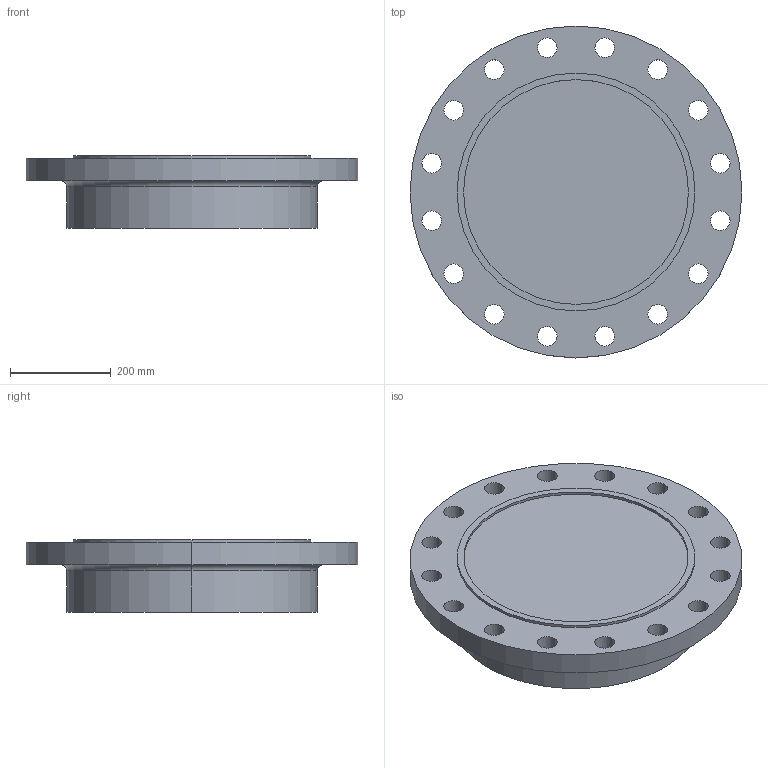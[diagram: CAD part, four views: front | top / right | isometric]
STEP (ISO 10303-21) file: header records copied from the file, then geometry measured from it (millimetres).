
FILE_DESCRIPTION (( 'STEP AP214' ), '1' );
FILE_NAME ('PN40 DN400 Type 21(i) - Type C Face.STEP', '2019-01-05T23:13:48', ( '' ), ( '' ), 'SwSTEP 2.0', 'SolidWorks 2019', '' );
FILE_SCHEMA (( 'AUTOMOTIVE_DESIGN' ));
Length unit declared in the file: millimetre
Products named in the file (1): PN40 DN400 Type 21(i) - Type C Face
Bounding box: 660 x 660 x 145 mm (x, y, z)
Volume: 33030240.8 mm3; surface area: 982047.6 mm2
Topology: 1 solids, 1 shells, 47 faces, 124 edges, 82 vertices
Faces by surface type: cylinder 40, plane 5, torus 2
Entity records: 1604 total; most frequent: DIRECTION 304, CARTESIAN_POINT 254, ORIENTED_EDGE 248, AXIS2_PLACEMENT_3D 132, EDGE_CURVE 124, CIRCLE 84, EDGE_LOOP 82, VERTEX_POINT 82
